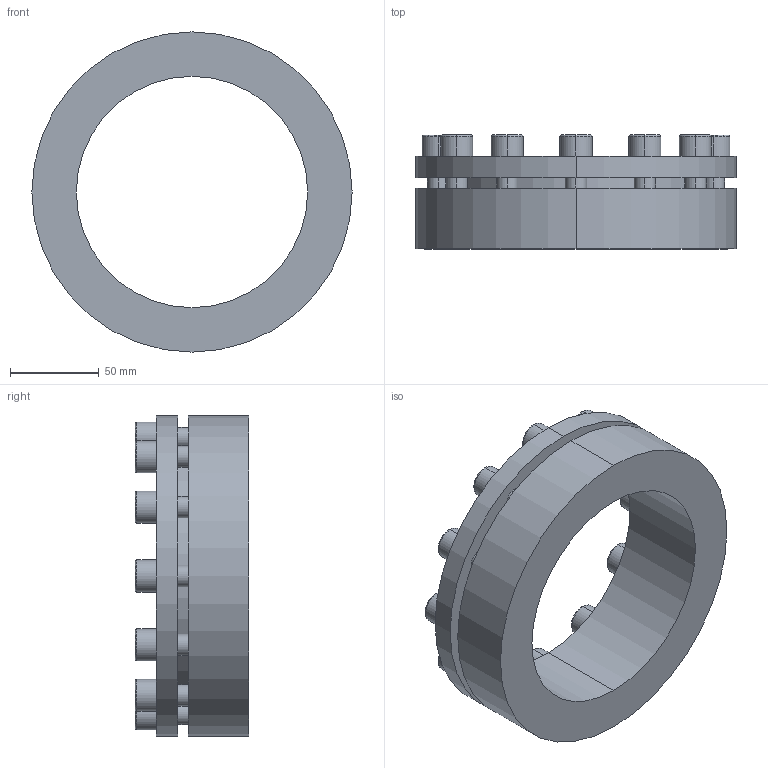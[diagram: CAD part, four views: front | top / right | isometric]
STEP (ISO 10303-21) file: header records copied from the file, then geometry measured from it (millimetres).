
FILE_DESCRIPTION (( 'STEP AP203' ), '1' );
FILE_NAME ('PL-H3 130-180.STEP', '2021-10-23T01:10:28', ( '' ), ( '' ), 'SwSTEP 2.0', 'SolidWorks 2018', '' );
FILE_SCHEMA (( 'CONFIG_CONTROL_DESIGN' ));
Length unit declared in the file: millimetre
Products named in the file (1): PL-H3 130-180
Bounding box: 180 x 64 x 180 mm (x, y, z)
Volume: 611121.5 mm3; surface area: 104682.6 mm2
Topology: 1 solids, 1 shells, 180 faces, 432 edges, 280 vertices
Faces by surface type: plane 100, cylinder 56, torus 24
Entity records: 5373 total; most frequent: DIRECTION 954, CARTESIAN_POINT 893, ORIENTED_EDGE 864, EDGE_CURVE 432, AXIS2_PLACEMENT_3D 341, VERTEX_POINT 280, LINE 272, VECTOR 272
